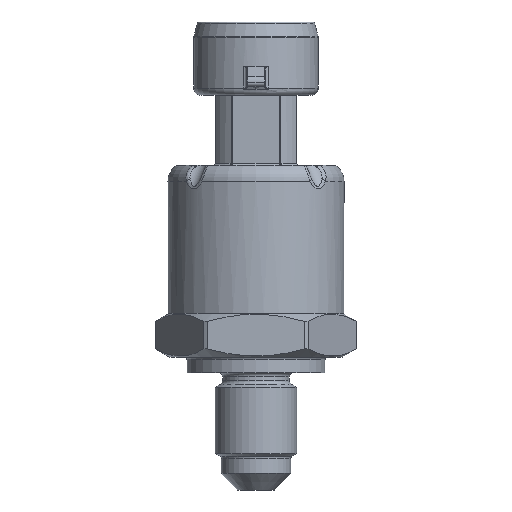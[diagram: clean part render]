
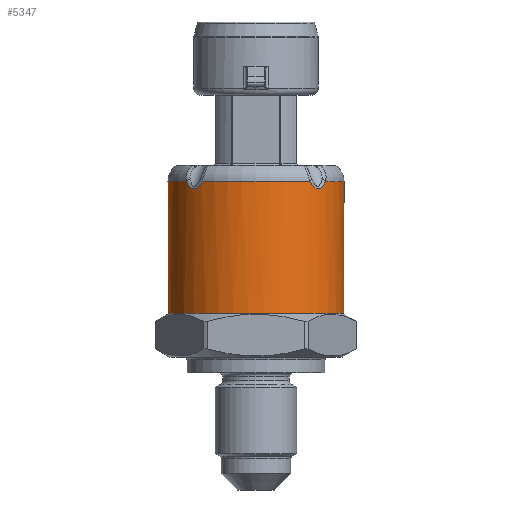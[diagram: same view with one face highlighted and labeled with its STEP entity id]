
A CAD part, front view. The second image highlights one B-rep face of the part: STEP entity #5347.
In plain terms, the highlighted cylindrical face has radius 12 mm (diameter 24 mm), a full revolution.
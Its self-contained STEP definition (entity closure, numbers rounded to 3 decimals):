
#188=CYLINDRICAL_SURFACE('',#6031,12.);
#439=LINE('',#11841,#688);
#688=VECTOR('',#7596,12.);
#1087=FACE_OUTER_BOUND('',#1429,.T.);
#1429=EDGE_LOOP('',(#4865,#4866,#4867,#4868,#4869,#4870,#4871,#4872,#4873,
#4874,#4875,#4876));
#1727=CIRCLE('',#6018,12.);
#1732=CIRCLE('',#6025,12.);
#1737=CIRCLE('',#6032,12.);
#1738=CIRCLE('',#6033,12.);
#1739=CIRCLE('',#6034,12.);
#1978=B_SPLINE_CURVE_WITH_KNOTS('',3,(#11672,#11673,#11674,#11675,#11676,
#11677,#11678,#11679,#11680,#11681),.UNSPECIFIED.,.F.,.F.,(4,1,1,1,1,1,
1,4),(0.,0.053,0.106,0.159,0.213,
0.266,0.319,0.372),.UNSPECIFIED.);
#1983=B_SPLINE_CURVE_WITH_KNOTS('',3,(#11783,#11784,#11785,#11786,#11787,
#11788,#11789,#11790,#11791,#11792,#11793,#11794,#11795,#11796,#11797,#11798,
#11799,#11800,#11801,#11802,#11803,#11804,#11805,#11806,#11807,#11808,#11809,
#11810),.UNSPECIFIED.,.F.,.F.,(4,3,3,3,3,3,3,3,3,4),(0.,0.029,
0.053,0.08,0.106,0.133,
0.157,0.159,0.177,0.186),
 .UNSPECIFIED.);
#1984=B_SPLINE_CURVE_WITH_KNOTS('',3,(#11813,#11814,#11815,#11816,#11817,
#11818,#11819,#11820,#11821,#11822),.UNSPECIFIED.,.F.,.F.,(4,1,1,1,1,1,
1,4),(0.,0.053,0.106,0.159,0.213,
0.266,0.319,0.372),.UNSPECIFIED.);
#1985=B_SPLINE_CURVE_WITH_KNOTS('',3,(#11823,#11824,#11825,#11826,#11827,
#11828,#11829,#11830,#11831,#11832),.UNSPECIFIED.,.F.,.F.,(4,1,1,1,1,1,
1,4),(0.,0.053,0.106,0.159,
0.213,0.266,0.319,0.372),
 .UNSPECIFIED.);
#1986=B_SPLINE_CURVE_WITH_KNOTS('',3,(#11833,#11834,#11835,#11836,#11837,
#11838,#11839),.UNSPECIFIED.,.F.,.F.,(4,1,1,1,4),(0.186,0.213,
0.266,0.292,0.372),.UNSPECIFIED.);
#2465=VERTEX_POINT('',#11080);
#2468=VERTEX_POINT('',#11249);
#2469=VERTEX_POINT('',#11258);
#2474=VERTEX_POINT('',#11483);
#2475=VERTEX_POINT('',#11492);
#2476=VERTEX_POINT('',#11525);
#2479=VERTEX_POINT('',#11602);
#2482=VERTEX_POINT('',#11781);
#2483=VERTEX_POINT('',#11782);
#2484=VERTEX_POINT('',#11840);
#3259=EDGE_CURVE('',#2468,#2469,#1727,.T.);
#3271=EDGE_CURVE('',#2474,#2475,#1732,.T.);
#3278=EDGE_CURVE('',#2476,#2479,#1978,.T.);
#3284=EDGE_CURVE('',#2482,#2483,#1983,.T.);
#3285=EDGE_CURVE('',#2482,#2479,#1737,.T.);
#3286=EDGE_CURVE('',#2476,#2465,#1738,.T.);
#3287=EDGE_CURVE('',#2468,#2465,#1984,.T.);
#3288=EDGE_CURVE('',#2474,#2469,#1985,.T.);
#3289=EDGE_CURVE('',#2483,#2475,#1986,.T.);
#3290=EDGE_CURVE('',#2483,#2484,#439,.T.);
#3291=EDGE_CURVE('',#2484,#2484,#1739,.T.);
#4865=ORIENTED_EDGE('',*,*,#3284,.F.);
#4866=ORIENTED_EDGE('',*,*,#3285,.T.);
#4867=ORIENTED_EDGE('',*,*,#3278,.F.);
#4868=ORIENTED_EDGE('',*,*,#3286,.T.);
#4869=ORIENTED_EDGE('',*,*,#3287,.F.);
#4870=ORIENTED_EDGE('',*,*,#3259,.T.);
#4871=ORIENTED_EDGE('',*,*,#3288,.F.);
#4872=ORIENTED_EDGE('',*,*,#3271,.T.);
#4873=ORIENTED_EDGE('',*,*,#3289,.F.);
#4874=ORIENTED_EDGE('',*,*,#3290,.T.);
#4875=ORIENTED_EDGE('',*,*,#3291,.T.);
#4876=ORIENTED_EDGE('',*,*,#3290,.F.);
#5347=ADVANCED_FACE('',(#1087),#188,.T.);
#6018=AXIS2_PLACEMENT_3D('',#11265,#7564,#7565);
#6025=AXIS2_PLACEMENT_3D('',#11499,#7578,#7579);
#6031=AXIS2_PLACEMENT_3D('',#11780,#7590,#7591);
#6032=AXIS2_PLACEMENT_3D('',#11811,#7592,#7593);
#6033=AXIS2_PLACEMENT_3D('',#11812,#7594,#7595);
#6034=AXIS2_PLACEMENT_3D('',#11842,#7597,#7598);
#7564=DIRECTION('center_axis',(0.,0.,-1.));
#7565=DIRECTION('ref_axis',(0.707,-0.707,0.));
#7578=DIRECTION('center_axis',(0.,0.,-1.));
#7579=DIRECTION('ref_axis',(0.707,-0.707,0.));
#7590=DIRECTION('center_axis',(0.,0.,1.));
#7591=DIRECTION('ref_axis',(0.707,-0.707,0.));
#7592=DIRECTION('center_axis',(0.,0.,-1.));
#7593=DIRECTION('ref_axis',(0.707,-0.707,0.));
#7594=DIRECTION('center_axis',(0.,0.,-1.));
#7595=DIRECTION('ref_axis',(0.707,-0.707,0.));
#7596=DIRECTION('',(0.,0.,-1.));
#7597=DIRECTION('center_axis',(0.,0.,1.));
#7598=DIRECTION('ref_axis',(0.707,-0.707,0.));
#11080=CARTESIAN_POINT('',(9.481,-7.356,17.005));
#11249=CARTESIAN_POINT('',(7.356,-9.481,17.005));
#11258=CARTESIAN_POINT('',(-7.356,-9.481,17.005));
#11265=CARTESIAN_POINT('Origin',(0.,0.,17.005));
#11483=CARTESIAN_POINT('',(-9.481,-7.356,17.005));
#11492=CARTESIAN_POINT('',(-9.481,7.356,17.005));
#11499=CARTESIAN_POINT('Origin',(0.,0.,17.005));
#11525=CARTESIAN_POINT('',(9.481,7.356,17.005));
#11602=CARTESIAN_POINT('',(7.356,9.481,17.005));
#11672=CARTESIAN_POINT('Ctrl Pts',(9.481,7.356,17.005));
#11673=CARTESIAN_POINT('Ctrl Pts',(9.421,7.433,16.853));
#11674=CARTESIAN_POINT('Ctrl Pts',(9.289,7.6,16.56));
#11675=CARTESIAN_POINT('Ctrl Pts',(9.032,7.905,16.18));
#11676=CARTESIAN_POINT('Ctrl Pts',(8.693,8.278,15.919));
#11677=CARTESIAN_POINT('Ctrl Pts',(8.279,8.692,15.92));
#11678=CARTESIAN_POINT('Ctrl Pts',(7.905,9.032,16.181));
#11679=CARTESIAN_POINT('Ctrl Pts',(7.6,9.288,16.56));
#11680=CARTESIAN_POINT('Ctrl Pts',(7.433,9.421,16.853));
#11681=CARTESIAN_POINT('Ctrl Pts',(7.356,9.481,17.005));
#11780=CARTESIAN_POINT('Origin',(0.,0.,-1.));
#11781=CARTESIAN_POINT('',(-7.356,9.481,17.005));
#11782=CARTESIAN_POINT('',(-8.485,8.485,15.929));
#11783=CARTESIAN_POINT('Ctrl Pts',(-7.356,9.481,17.005));
#11784=CARTESIAN_POINT('Ctrl Pts',(-7.398,9.449,16.923));
#11785=CARTESIAN_POINT('Ctrl Pts',(-7.441,9.415,16.843));
#11786=CARTESIAN_POINT('Ctrl Pts',(-7.487,9.378,16.765));
#11787=CARTESIAN_POINT('Ctrl Pts',(-7.526,9.347,16.698));
#11788=CARTESIAN_POINT('Ctrl Pts',(-7.566,9.314,16.633));
#11789=CARTESIAN_POINT('Ctrl Pts',(-7.609,9.279,16.57));
#11790=CARTESIAN_POINT('Ctrl Pts',(-7.655,9.241,16.502));
#11791=CARTESIAN_POINT('Ctrl Pts',(-7.704,9.201,16.436));
#11792=CARTESIAN_POINT('Ctrl Pts',(-7.755,9.158,16.373));
#11793=CARTESIAN_POINT('Ctrl Pts',(-7.806,9.114,16.311));
#11794=CARTESIAN_POINT('Ctrl Pts',(-7.86,9.068,16.253));
#11795=CARTESIAN_POINT('Ctrl Pts',(-7.916,9.019,16.2));
#11796=CARTESIAN_POINT('Ctrl Pts',(-7.973,8.969,16.146));
#11797=CARTESIAN_POINT('Ctrl Pts',(-8.032,8.916,16.098));
#11798=CARTESIAN_POINT('Ctrl Pts',(-8.094,8.86,16.058));
#11799=CARTESIAN_POINT('Ctrl Pts',(-8.149,8.809,16.021));
#11800=CARTESIAN_POINT('Ctrl Pts',(-8.207,8.756,15.991));
#11801=CARTESIAN_POINT('Ctrl Pts',(-8.265,8.7,15.969));
#11802=CARTESIAN_POINT('Ctrl Pts',(-8.272,8.693,15.966));
#11803=CARTESIAN_POINT('Ctrl Pts',(-8.279,8.687,15.964));
#11804=CARTESIAN_POINT('Ctrl Pts',(-8.285,8.681,15.962));
#11805=CARTESIAN_POINT('Ctrl Pts',(-8.328,8.64,15.947));
#11806=CARTESIAN_POINT('Ctrl Pts',(-8.372,8.597,15.938));
#11807=CARTESIAN_POINT('Ctrl Pts',(-8.415,8.555,15.933));
#11808=CARTESIAN_POINT('Ctrl Pts',(-8.439,8.532,15.93));
#11809=CARTESIAN_POINT('Ctrl Pts',(-8.462,8.509,15.929));
#11810=CARTESIAN_POINT('Ctrl Pts',(-8.485,8.485,15.929));
#11811=CARTESIAN_POINT('Origin',(0.,0.,17.005));
#11812=CARTESIAN_POINT('Origin',(0.,0.,17.005));
#11813=CARTESIAN_POINT('Ctrl Pts',(7.356,-9.481,17.005));
#11814=CARTESIAN_POINT('Ctrl Pts',(7.433,-9.421,16.853));
#11815=CARTESIAN_POINT('Ctrl Pts',(7.6,-9.289,16.56));
#11816=CARTESIAN_POINT('Ctrl Pts',(7.905,-9.032,16.18));
#11817=CARTESIAN_POINT('Ctrl Pts',(8.278,-8.693,15.919));
#11818=CARTESIAN_POINT('Ctrl Pts',(8.692,-8.279,15.92));
#11819=CARTESIAN_POINT('Ctrl Pts',(9.032,-7.905,16.181));
#11820=CARTESIAN_POINT('Ctrl Pts',(9.288,-7.6,16.56));
#11821=CARTESIAN_POINT('Ctrl Pts',(9.421,-7.433,16.853));
#11822=CARTESIAN_POINT('Ctrl Pts',(9.481,-7.356,17.005));
#11823=CARTESIAN_POINT('Ctrl Pts',(-9.481,-7.356,17.005));
#11824=CARTESIAN_POINT('Ctrl Pts',(-9.421,-7.433,
16.853));
#11825=CARTESIAN_POINT('Ctrl Pts',(-9.289,-7.6,
16.56));
#11826=CARTESIAN_POINT('Ctrl Pts',(-9.032,-7.905,16.18));
#11827=CARTESIAN_POINT('Ctrl Pts',(-8.693,-8.278,
15.919));
#11828=CARTESIAN_POINT('Ctrl Pts',(-8.279,-8.692,15.92));
#11829=CARTESIAN_POINT('Ctrl Pts',(-7.905,-9.032,
16.181));
#11830=CARTESIAN_POINT('Ctrl Pts',(-7.6,-9.288,16.56));
#11831=CARTESIAN_POINT('Ctrl Pts',(-7.433,-9.421,
16.853));
#11832=CARTESIAN_POINT('Ctrl Pts',(-7.356,-9.481,
17.005));
#11833=CARTESIAN_POINT('Ctrl Pts',(-8.485,8.485,15.929));
#11834=CARTESIAN_POINT('Ctrl Pts',(-8.552,8.419,15.929));
#11835=CARTESIAN_POINT('Ctrl Pts',(-8.749,8.217,15.963));
#11836=CARTESIAN_POINT('Ctrl Pts',(-8.976,7.967,16.137));
#11837=CARTESIAN_POINT('Ctrl Pts',(-9.252,7.646,16.487));
#11838=CARTESIAN_POINT('Ctrl Pts',(-9.392,7.471,16.777));
#11839=CARTESIAN_POINT('Ctrl Pts',(-9.481,7.356,17.005));
#11840=CARTESIAN_POINT('',(-8.485,8.485,-1.));
#11841=CARTESIAN_POINT('',(-8.485,8.485,-1.));
#11842=CARTESIAN_POINT('Origin',(0.,0.,-1.));
